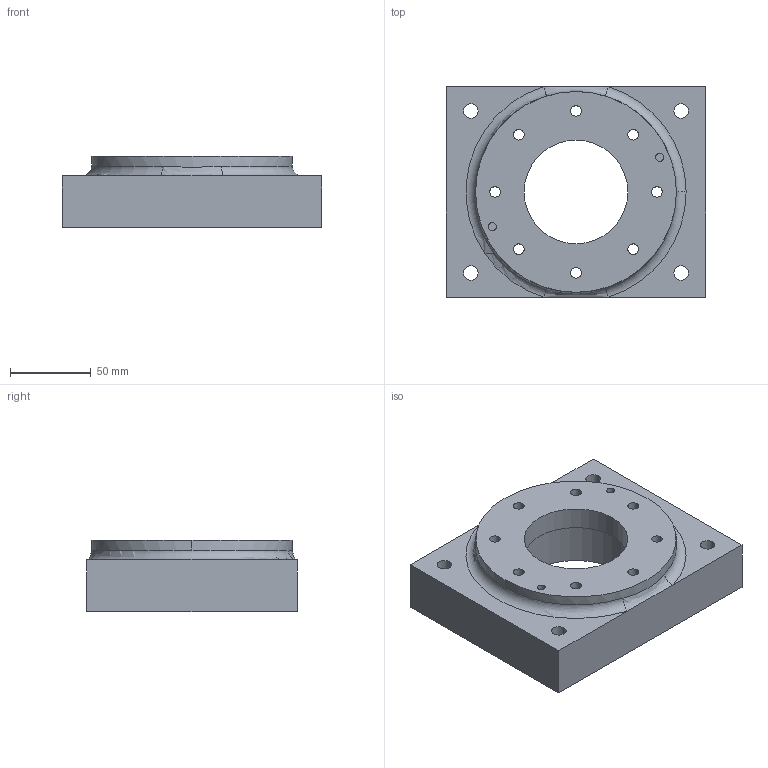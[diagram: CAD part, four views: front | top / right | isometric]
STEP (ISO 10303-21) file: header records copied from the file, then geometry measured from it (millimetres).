
FILE_DESCRIPTION (( 'STEP AP203' ), '1' );
FILE_NAME ('SRB160-BRACKET-001.roundtrip.step', '2026-08-13T23:24:25', ( '' ), ( '' ), 'SwSTEP 2.0', 'SolidWorks 2026', '' );
FILE_SCHEMA (( 'CONFIG_CONTROL_DESIGN' ));
Length unit declared in the file: millimetre
Products named in the file (1): SRB160-BRACKET-001.roundtrip
Bounding box: 160 x 130 x 44 mm (x, y, z)
Volume: 599975.6 mm3; surface area: 79531 mm2
Topology: 1 solids, 1 shells, 101 faces, 232 edges, 153 vertices
Faces by surface type: cylinder 68, plane 28, torus 3, bspline 2
Entity records: 3145 total; most frequent: CARTESIAN_POINT 595, DIRECTION 570, ORIENTED_EDGE 464, AXIS2_PLACEMENT_3D 244, EDGE_CURVE 232, VERTEX_POINT 153, EDGE_LOOP 147, CIRCLE 144
